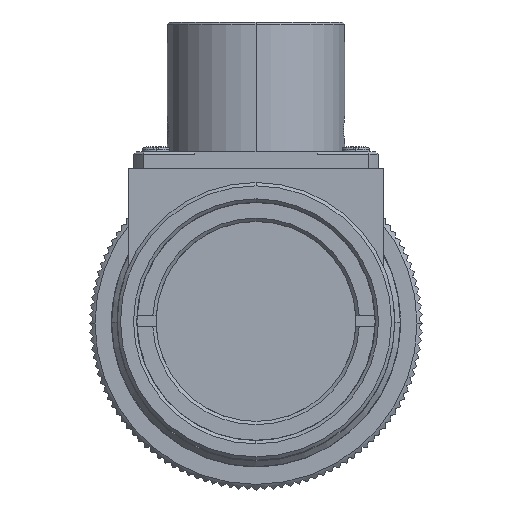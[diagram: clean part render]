
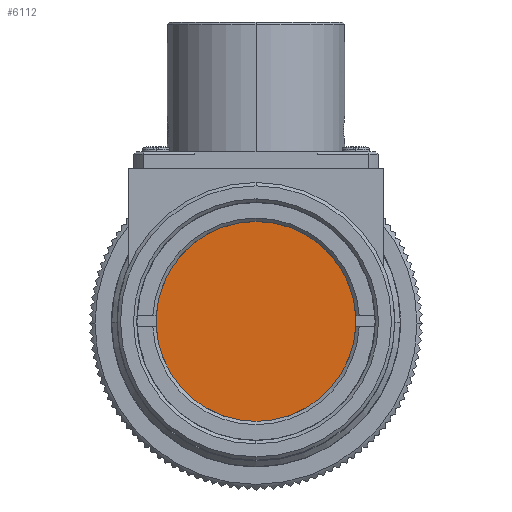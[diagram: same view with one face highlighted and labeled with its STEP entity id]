
A CAD part, top view. The second image highlights one B-rep face of the part: STEP entity #6112.
In plain terms, the highlighted planar face has unit normal (0, 0, 1).
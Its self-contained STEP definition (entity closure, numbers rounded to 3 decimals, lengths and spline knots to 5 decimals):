
#4945 = ORIENTED_EDGE ( 'NONE', *, *, #34985, .T. ) ;
#4946 = ORIENTED_EDGE ( 'NONE', *, *, #35016, .T. ) ;
#6112 = ADVANCED_FACE ( 'NONE', ( #23407 ), #23408, .F. ) ;
#13454 = VERTEX_POINT ( 'NONE', #24764 ) ;
#13638 = VERTEX_POINT ( 'NONE', #24948 ) ;
#19775 = AXIS2_PLACEMENT_3D ( 'NONE', #30551, #30552, #30553 ) ;
#19828 = AXIS2_PLACEMENT_3D ( 'NONE', #30448, #30449, #30450 ) ;
#19840 = CIRCLE ( 'NONE', #19775, 0.36614 ) ;
#20129 = CIRCLE ( 'NONE', #19828, 0.36614 ) ;
#23399 = CARTESIAN_POINT ( 'NONE',  ( 0., 0., 1.51586 ) ) ;
#23407 = FACE_OUTER_BOUND ( 'NONE', #35683, .T. ) ;
#23408 = PLANE ( 'NONE',  #32824 ) ;
#23410 = DIRECTION ( 'NONE',  ( 0., 0., -1. ) ) ;
#23411 = DIRECTION ( 'NONE',  ( -1., 0., 0. ) ) ;
#24764 = CARTESIAN_POINT ( 'NONE',  ( 0.36614, 0., 1.51586 ) ) ;
#24948 = CARTESIAN_POINT ( 'NONE',  ( -0.36614, 0., 1.51586 ) ) ;
#30448 = CARTESIAN_POINT ( 'NONE',  ( 0., 0., 1.51586 ) ) ;
#30449 = DIRECTION ( 'NONE',  ( 0., 0., 1. ) ) ;
#30450 = DIRECTION ( 'NONE',  ( 1., 0., 0. ) ) ;
#30551 = CARTESIAN_POINT ( 'NONE',  ( 0., 0., 1.51586 ) ) ;
#30552 = DIRECTION ( 'NONE',  ( 0., 0., 1. ) ) ;
#30553 = DIRECTION ( 'NONE',  ( 1., 0., 0. ) ) ;
#32824 = AXIS2_PLACEMENT_3D ( 'NONE', #23399, #23410, #23411 ) ;
#34985 = EDGE_CURVE ( 'NONE', #13638, #13454, #20129, .T. ) ;
#35016 = EDGE_CURVE ( 'NONE', #13454, #13638, #19840, .T. ) ;
#35683 = EDGE_LOOP ( 'NONE', ( #4945, #4946 ) ) ;
